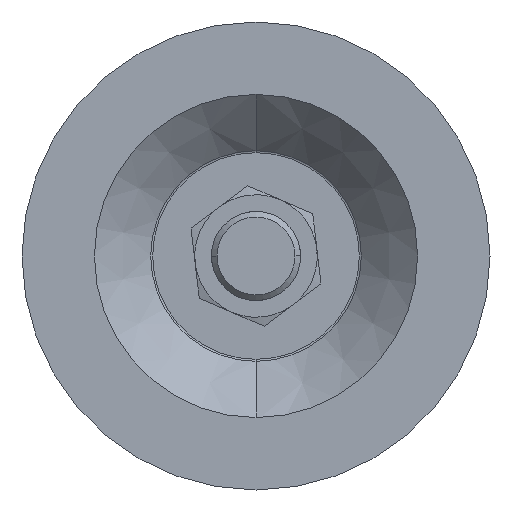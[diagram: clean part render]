
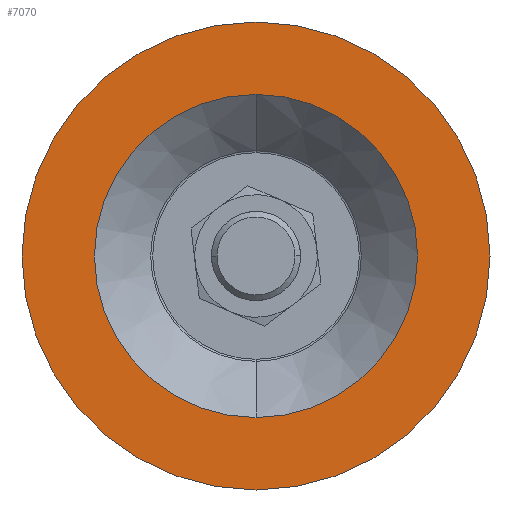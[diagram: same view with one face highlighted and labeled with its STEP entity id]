
A CAD part, front view. The second image highlights one B-rep face of the part: STEP entity #7070.
In plain terms, the highlighted planar face has unit normal (0, -1, 0).
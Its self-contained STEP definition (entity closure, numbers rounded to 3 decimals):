
#230 = FACE_BOUND ( 'NONE', #7551, .T. ) ;
#325 = FACE_OUTER_BOUND ( 'NONE', #4290, .T. ) ;
#779 = VERTEX_POINT ( 'NONE', #7003 ) ;
#832 = DIRECTION ( 'NONE',  ( 0., 0., -1. ) ) ;
#861 = DIRECTION ( 'NONE',  ( 0., -1., 0. ) ) ;
#1052 = DIRECTION ( 'NONE',  ( 0., -1., 0. ) ) ;
#1097 = DIRECTION ( 'NONE',  ( 0., -1., 0. ) ) ;
#1145 = CARTESIAN_POINT ( 'NONE',  ( 0., -3.2, -42. ) ) ;
#1360 = EDGE_CURVE ( 'NONE', #8123, #2860, #7812, .T. ) ;
#2718 = AXIS2_PLACEMENT_3D ( 'NONE', #8430, #861, #6423 ) ;
#2860 = VERTEX_POINT ( 'NONE', #1145 ) ;
#3329 = CARTESIAN_POINT ( 'NONE',  ( 0., -3.2, 0. ) ) ;
#3379 = CIRCLE ( 'NONE', #4261, 42. ) ;
#3842 = ORIENTED_EDGE ( 'NONE', *, *, #7586, .F. ) ;
#4031 = CIRCLE ( 'NONE', #5719, 29. ) ;
#4261 = AXIS2_PLACEMENT_3D ( 'NONE', #6640, #1097, #5921 ) ;
#4290 = EDGE_LOOP ( 'NONE', ( #4795, #5142 ) ) ;
#4299 = DIRECTION ( 'NONE',  ( 0., -1., 0. ) ) ;
#4795 = ORIENTED_EDGE ( 'NONE', *, *, #7189, .T. ) ;
#5021 = PLANE ( 'NONE',  #2718 ) ;
#5055 = CARTESIAN_POINT ( 'NONE',  ( 0., -3.2, 0. ) ) ;
#5142 = ORIENTED_EDGE ( 'NONE', *, *, #1360, .T. ) ;
#5226 = CARTESIAN_POINT ( 'NONE',  ( 0., -3.2, 42. ) ) ;
#5246 = EDGE_CURVE ( 'NONE', #779, #5340, #4031, .T. ) ;
#5305 = ORIENTED_EDGE ( 'NONE', *, *, #5246, .F. ) ;
#5340 = VERTEX_POINT ( 'NONE', #5728 ) ;
#5469 = DIRECTION ( 'NONE',  ( 0., 0., -1. ) ) ;
#5719 = AXIS2_PLACEMENT_3D ( 'NONE', #5941, #1052, #6568 ) ;
#5728 = CARTESIAN_POINT ( 'NONE',  ( 0., -3.2, -29. ) ) ;
#5856 = CIRCLE ( 'NONE', #7623, 29. ) ;
#5921 = DIRECTION ( 'NONE',  ( 0., 0., -1. ) ) ;
#5941 = CARTESIAN_POINT ( 'NONE',  ( 0., -3.2, 0. ) ) ;
#6423 = DIRECTION ( 'NONE',  ( 0., 0., -1. ) ) ;
#6568 = DIRECTION ( 'NONE',  ( 0., 0., -1. ) ) ;
#6640 = CARTESIAN_POINT ( 'NONE',  ( 0., -3.2, 0. ) ) ;
#6917 = AXIS2_PLACEMENT_3D ( 'NONE', #3329, #8246, #5469 ) ;
#7003 = CARTESIAN_POINT ( 'NONE',  ( 0., -3.2, 29. ) ) ;
#7070 = ADVANCED_FACE ( 'NONE', ( #325, #230 ), #5021, .T. ) ;
#7189 = EDGE_CURVE ( 'NONE', #2860, #8123, #3379, .T. ) ;
#7551 = EDGE_LOOP ( 'NONE', ( #3842, #5305 ) ) ;
#7586 = EDGE_CURVE ( 'NONE', #5340, #779, #5856, .T. ) ;
#7623 = AXIS2_PLACEMENT_3D ( 'NONE', #5055, #4299, #832 ) ;
#7812 = CIRCLE ( 'NONE', #6917, 42. ) ;
#8123 = VERTEX_POINT ( 'NONE', #5226 ) ;
#8246 = DIRECTION ( 'NONE',  ( 0., -1., 0. ) ) ;
#8430 = CARTESIAN_POINT ( 'NONE',  ( 42., -3.2, 0. ) ) ;
